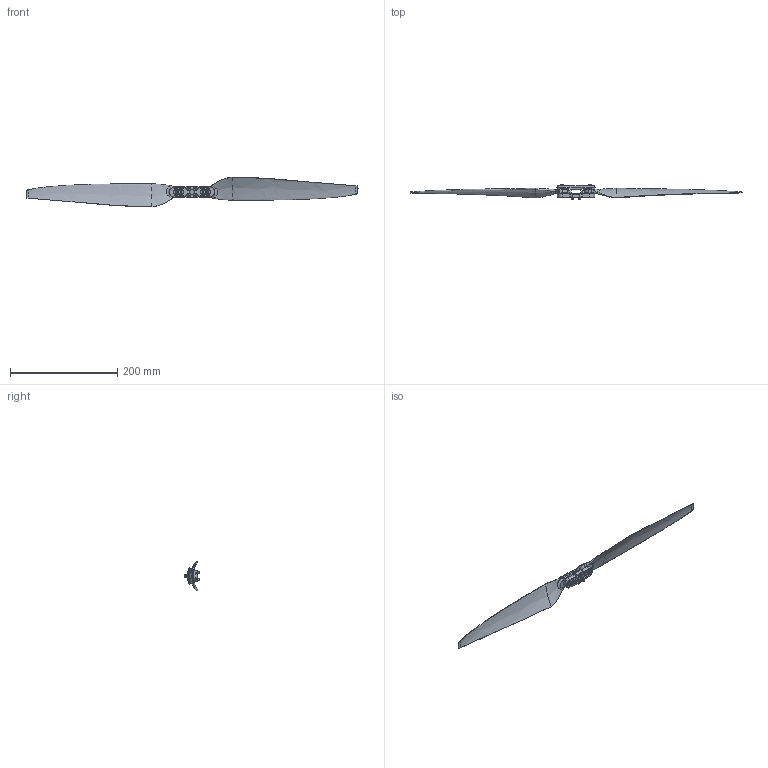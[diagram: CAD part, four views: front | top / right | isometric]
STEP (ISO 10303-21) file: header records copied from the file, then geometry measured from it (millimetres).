
FILE_DESCRIPTION (( 'STEP AP203' ), '1' );
FILE_NAME ('30505007903-2480桨叶桨夹-V2-CCW(对外3D图档-2025.03.26).step', '2025-03-26T01:40:40', ( '' ), ( '' ), 'SwSTEP 2.0', 'SolidWorks 2021', '' );
FILE_SCHEMA (( 'CONFIG_CONTROL_DESIGN' ));
Length unit declared in the file: millimetre
Products named in the file (1): 30505007903-2480桨叶桨夹-V2-CCW(对外3D图档-2025.03.26)
Bounding box: 620 x 29.8 x 55.3 mm (x, y, z)
Volume: 63898.6 mm3; surface area: 53272.9 mm2
Topology: 15 solids, 17 shells, 1213 faces, 3020 edges, 1948 vertices
Faces by surface type: plane 497, cylinder 478, bspline 138, cone 78, torus 22
Entity records: 83001 total; most frequent: CARTESIAN_POINT 54904, ORIENTED_EDGE 6020, DIRECTION 5490, EDGE_CURVE 3010, AXIS2_PLACEMENT_3D 2066, VERTEX_POINT 1948, VECTOR 1358, LINE 1358
